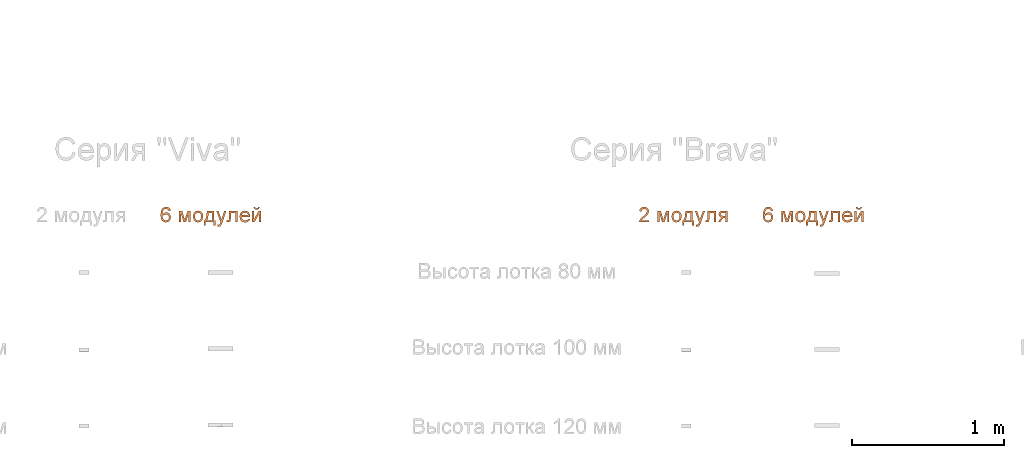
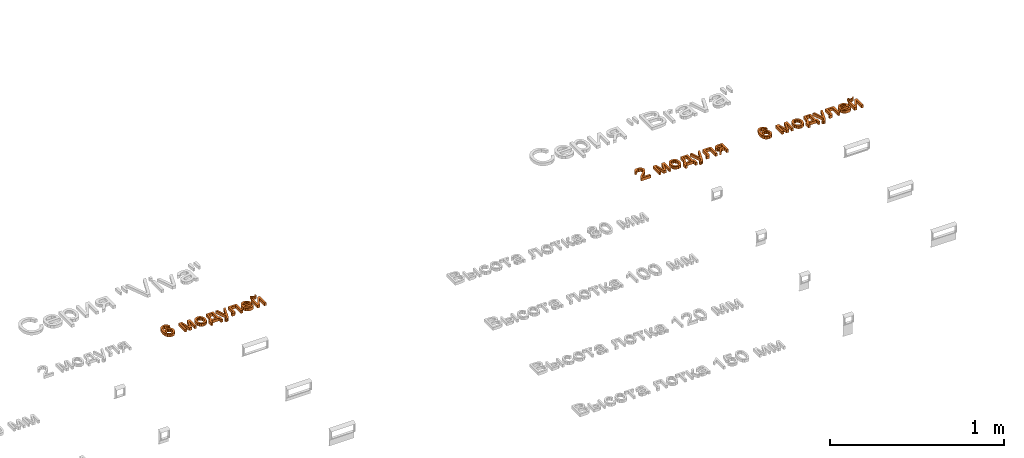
# One storey, part 36 of 71: 3 proxies.
"""IFC2X3 building model written with IfcOpenShell, lengths in millimetres."""

from ifc_helpers import new_model, entity, si_unit, converted_unit, derived_unit, direction, frame, origin, place, context, subcontext, project, spatial, polyline, outline, extrude, element, save


model = new_model("IFC2X3")

# Units and contexts
model_context = context("Model", 3, precision=0.01, world=origin(), true_north=direction((6.12303176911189e-17, 1.0)))
body_context = subcontext(model_context, "Body", "Model", "MODEL_VIEW")
ifc_project = project(units=[si_unit("LENGTHUNIT", "METRE", prefix="MILLI"), si_unit("AREAUNIT", "SQUARE_METRE"), si_unit("VOLUMEUNIT", "CUBIC_METRE"), converted_unit("PLANEANGLEUNIT", "DEGREE", entity("IfcRatioMeasure", 0.0174532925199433), si_unit("PLANEANGLEUNIT", "RADIAN"), dimensions=[0, 0, 0, 0, 0, 0, 0]), si_unit("MASSUNIT", "GRAM", prefix="KILO"), derived_unit("MASSDENSITYUNIT", [(si_unit("MASSUNIT", "GRAM", prefix="KILO"), 1), (si_unit("LENGTHUNIT", "METRE"), -3)]), si_unit("TIMEUNIT", "SECOND"), si_unit("FREQUENCYUNIT", "HERTZ"), si_unit("THERMODYNAMICTEMPERATUREUNIT", "DEGREE_CELSIUS"), derived_unit("THERMALTRANSMITTANCEUNIT", [(si_unit("MASSUNIT", "GRAM", prefix="KILO"), 1), (si_unit("THERMODYNAMICTEMPERATUREUNIT", "KELVIN"), -1), (si_unit("TIMEUNIT", "SECOND"), -3)]), derived_unit("VOLUMETRICFLOWRATEUNIT", [(si_unit("LENGTHUNIT", "METRE"), 3), (si_unit("TIMEUNIT", "SECOND"), -1)]), si_unit("ELECTRICCURRENTUNIT", "AMPERE"), si_unit("ELECTRICVOLTAGEUNIT", "VOLT"), si_unit("POWERUNIT", "WATT"), si_unit("FORCEUNIT", "NEWTON", prefix="KILO"), si_unit("ILLUMINANCEUNIT", "LUX"), si_unit("LUMINOUSFLUXUNIT", "LUMEN"), si_unit("LUMINOUSINTENSITYUNIT", "CANDELA"), derived_unit("USERDEFINED", [(si_unit("MASSUNIT", "GRAM", prefix="KILO"), -1), (si_unit("LENGTHUNIT", "METRE"), -2), (si_unit("TIMEUNIT", "SECOND"), 3), (si_unit("LUMINOUSFLUXUNIT", "LUMEN"), 1)]), derived_unit("LINEARVELOCITYUNIT", [(si_unit("LENGTHUNIT", "METRE"), 1), (si_unit("TIMEUNIT", "SECOND"), -1)]), si_unit("PRESSUREUNIT", "PASCAL"), derived_unit("USERDEFINED", [(si_unit("LENGTHUNIT", "METRE"), -2), (si_unit("MASSUNIT", "GRAM", prefix="KILO"), 1), (si_unit("TIMEUNIT", "SECOND"), -2)])], contexts=[model_context])

# Site, building, storey
site_placement = place(None, origin())
site = spatial("IfcSite", under=ifc_project, at=site_placement, Name="Default", CompositionType="ELEMENT")
building_placement = place(site_placement, origin())
building = spatial("IfcBuilding", under=site, at=building_placement, Name="Наименование здания", CompositionType="ELEMENT")
storey_placement = place(building_placement, origin())
storey = spatial("IfcBuildingStorey", under=building, at=storey_placement, Name="Этаж 01", CompositionType="ELEMENT", Elevation=0.0)

# Proxies
proxy_1_placement = place(storey_placement, origin())
element("IfcBuildingElementProxy", 1, at=proxy_1_placement, inside=storey, Name="Текст модели:100 мм Arial", ObjectType="Текст модели:100 мм Arial", context=body_context, shape_type="SweptSolid", body=[
    extrude(outline(polyline([(6.79275401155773, -32.502776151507), (18.3659045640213, -32.502776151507), (28.152520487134, -28.8011371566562), (35.6312934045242, -21.7178704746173), (40.2809149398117, -11.5729874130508), (41.4130789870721, 3.23667074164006), (36.1391243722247, 16.3729018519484), (21.8599739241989, 28.8803269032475), (-1.50836821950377, 38.2054593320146), (-23.6059131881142, 41.7609274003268), (-39.9814227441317, 38.5965283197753), (-51.1650797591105, 29.9216784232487), (-57.6870671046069, 16.9457940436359), (-57.9805556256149, -0.0494879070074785), (-49.2081886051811, -14.3141019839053), (-33.6167855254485, -22.9350568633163), (-20.6265742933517, -24.2502330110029), (-8.97800352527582, -20.6254922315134), (0.0919027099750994, -13.0350962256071), (5.34612034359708, -2.4533066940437), (5.85483161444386, 11.6447254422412), (-0.843339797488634, 24.9910631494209), (19.7707676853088, 15.5765036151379), (28.484099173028, 4.2676616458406), (28.389351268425, -7.46374532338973), (19.9956250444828, -18.1936336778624), (8.63303585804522, -19.9825396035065), (6.79275401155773, -32.502776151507)]), holes=[polyline([(-18.7586717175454, 29.9549594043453), (-11.6328110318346, 26.3613362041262), (-6.94154076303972, 20.203831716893), (-5.85783236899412, 4.13761066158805), (-9.48331864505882, -3.95286412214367), (-15.1077394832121, -9.26901644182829), (-22.3091633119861, -11.5969098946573), (-30.6656585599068, -10.722608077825), (-38.6094491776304, -7.06141592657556), (-43.8637090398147, -1.22509865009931), (-46.1835287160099, 6.17768396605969), (-45.3239987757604, 14.5382721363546), (-39.6901171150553, 24.7221971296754), (-30.0168134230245, 30.0585493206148), (-18.7586717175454, 29.9549594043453)])]), frame((4252.0631442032, -11537.5554255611, 0.0), z_axis=(0.0, 0.0, 1.0), x_axis=(-0.267015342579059, 0.963692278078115, 0.0)), (0.0, 0.0, 1.0), 20.0),
    extrude(outline(polyline([(-40.5839870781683, -38.4502715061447), (33.1886156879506, -38.4502715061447), (33.1886156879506, -25.8932327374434), (-29.0570178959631, -25.8932327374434), (33.1886156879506, -8.62730443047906), (33.1886156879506, 7.85380895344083), (-26.2120637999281, 25.9045521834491), (33.1886156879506, 25.9045521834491), (33.1886156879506, 38.4615909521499), (-40.5839870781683, 38.4615909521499), (-40.5839870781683, 17.7620973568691), (18.4733358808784, -0.190544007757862), (-40.5839870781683, -16.8433356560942), (-40.5839870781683, -38.4502715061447)])), frame((4374.95936517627, -11562.9145481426, 0.0), z_axis=(0.0, 0.0, 1.0), x_axis=(0.0, -1.0, 0.0)), (0.0, 0.0, 1.0), 20.0),
    extrude(outline(polyline([(-2.34029740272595, -31.6984909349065), (14.2731811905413, -31.6984909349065), (27.1869525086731, -26.5873672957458), (35.990959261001, -17.181127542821), (40.2751441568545, -4.29577920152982), (38.1491713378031, 13.1690451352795), (27.2514955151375, 26.6485362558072), (5.67797919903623, 33.7446283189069), (-10.1280544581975, 33.6081083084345), (-22.8059382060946, 28.3900569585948), (-31.6389568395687, 18.9754531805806), (-35.9103951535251, 6.24927588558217), (-35.540640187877, -5.97109031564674), (-30.8535887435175, -16.7835237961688), (-19.5870121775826, -26.5692340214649), (-2.34029740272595, -31.6984909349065)]), holes=[polyline([(-0.642949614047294, -19.2566729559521), (-11.6948097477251, -16.2599663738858), (-19.0989004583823, -10.834182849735), (-22.9822632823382, -3.67356758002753), (-23.4719397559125, 4.5276342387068), (-20.7783225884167, 12.204664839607), (-15.0781786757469, 18.0357050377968), (-6.56600936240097, 21.2863283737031), (4.56368400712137, 21.2221083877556), (15.8675929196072, 18.1905150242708), (23.3961896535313, 12.7474982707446), (27.3267847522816, 5.59272509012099), (27.8366887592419, -2.57413755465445), (25.1317228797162, -10.3331599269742), (19.4311586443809, -16.1672368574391), (10.8134498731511, -19.3753979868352), (-0.642949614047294, -19.2566729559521)])]), frame((4460.83726648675, -11557.1890151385, 0.0), z_axis=(0.0, 0.0, 1.0), x_axis=(0.137105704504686, -0.990556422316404, 0.0)), (0.0, 0.0, 1.0), 20.0),
    extrude(outline(polyline([(-60.5357741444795, 21.858540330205), (-64.1355131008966, -25.0925613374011), (-3.09908093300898, -29.7722219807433), (-3.81902872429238, -39.1624423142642), (29.0467424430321, -41.6822595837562), (30.0066728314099, -29.1619658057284), (9.66119544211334, -27.6020789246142), (13.6209082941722, 24.0441329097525), (33.9663856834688, 22.4842460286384), (34.9263160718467, 35.0045398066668), (2.06054490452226, 37.5243570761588), (1.46058841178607, 29.6991734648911), (-23.1599571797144, 21.858540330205), (-60.5357741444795, 21.858540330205)]), holes=[polyline([(-48.8554194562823, 9.94335288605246), (-20.1051961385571, 10.6907678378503), (0.380666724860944, 15.6138429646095), (-2.13915054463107, -17.2519282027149), (-50.6552889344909, -13.5321979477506), (-48.8554194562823, 9.94335288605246)])]), frame((4537.3226688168, -11584.360181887, 0.0), z_axis=(0.0, 0.0, -1.0), x_axis=(-0.0764456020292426, -0.997073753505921, 0.0)), (0.0, 0.0, -1.0), 20.0),
    extrude(outline(polyline([(-9.37518561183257, -42.4598564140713), (-1.53988444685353, -42.4598564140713), (7.4823997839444, -37.7362595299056), (12.8451650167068, -27.6028387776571), (16.0988896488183, -10.2155558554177), (26.1240678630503, 68.9356869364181), (13.2448947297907, 66.3022457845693), (7.58427059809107, 21.387273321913), (5.65333119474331, 6.22303112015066), (-2.4583338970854, 21.286400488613), (-24.5276055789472, 58.578795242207), (-37.5028919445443, 55.9257015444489), (3.36457727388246, -10.7416452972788), (3.01267387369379, -13.9176809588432), (1.50096319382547, -23.664192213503), (-1.30543571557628, -28.1807080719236), (-6.86672236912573, -30.7321996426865), (-13.3351736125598, -30.9283412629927), (-9.37518561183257, -42.4598564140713)])), frame((4608.4801651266, -11584.6354645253, 0.0), z_axis=(0.0, 0.0, 1.0), x_axis=(0.979728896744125, -0.200327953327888, 0.0)), (0.0, 0.0, 1.0), 20.0),
    extrude(outline(polyline([(-49.3689973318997, 12.544776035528), (-49.3689973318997, -43.9618984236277), (24.3300290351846, -43.9618984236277), (24.3300290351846, -31.4048596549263), (-36.811958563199, -31.4048596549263), (-36.811958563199, -0.0122627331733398), (-1.61791435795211, -0.0122627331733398), (14.6179443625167, 0.833865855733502), (21.4728122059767, 5.48144172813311), (24.4036054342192, 16.4688506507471), (23.7659433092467, 26.6714446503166), (11.8465666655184, 26.6714446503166), (11.8465666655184, 21.0551128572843), (11.0740144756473, 15.3774673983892), (8.62146784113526, 13.1088617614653), (-2.32915288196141, 12.544776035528), (-49.3689973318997, 12.544776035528)])), frame((4677.10650753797, -11571.6995583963, 0.0), z_axis=(0.0, 0.0, -1.0), x_axis=(0.0, -1.0, 0.0)), (0.0, 0.0, -1.0), 20.0),
    extrude(outline(polyline([(-8.10128238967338, -20.3751729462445), (-15.5352214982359, -30.3140016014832), (-5.78400372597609, -33.5775071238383), (4.12185089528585, -33.3132173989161), (13.8776168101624, -29.4480778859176), (23.1785684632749, -21.90903404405), (31.6380426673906, -9.59237957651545), (34.1620486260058, 3.74135328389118), (30.604050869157, 17.2442201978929), (20.8175139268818, 30.0682768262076), (7.27698270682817, 39.7846728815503), (-6.66179525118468, 43.1117813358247), (-19.9642596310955, 40.4221234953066), (-31.5958501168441, 32.0882206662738), (-39.2435519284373, 20.5090048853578), (-41.3106827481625, 7.34319797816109), (-37.4373707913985, -6.34962495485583), (-27.2637442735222, -19.5098888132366), (-24.7804584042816, -21.8106804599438), (14.4643272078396, 18.7422646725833), (19.7071986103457, 10.6437992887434), (21.1614672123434, 2.21005051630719), (19.1472085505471, -5.98136753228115), (13.9844981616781, -13.35284074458), (3.53684605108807, -20.3751729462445), (-8.10128238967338, -20.3751729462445)]), holes=[polyline([(5.44081225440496, 27.4746984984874), (-25.1227061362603, -4.10760383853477), (-29.8038819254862, 7.41909510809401), (-27.8851342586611, 15.7498710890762), (-22.5382240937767, 23.3910349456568), (-8.40970331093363, 31.2368652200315), (-1.08072680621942, 30.9147288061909), (5.44081225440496, 27.4746984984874)])]), frame((4771.2791479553, -11565.7806130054, 0.0), z_axis=(0.0, 0.0, -1.0), x_axis=(-0.695421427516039, -0.718602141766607, 0.0)), (0.0, 0.0, -1.0), 20.0),
    extrude(outline(polyline([(-11.1429830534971, -6.65049913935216), (-15.3141401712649, -15.0941956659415), (-0.092219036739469, -15.8161107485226), (10.2631635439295, -5.8454754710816), (12.4162171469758, 9.42172447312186), (2.76087400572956, 21.4951559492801), (-1.41028311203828, 13.0514594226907), (3.36929976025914, 6.75127419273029), (2.31913688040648, -0.662833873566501), (-3.16906596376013, -6.65049913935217), (-11.1429830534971, -6.65049913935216)])), frame((4846.72831160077, -11502.6917938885, 0.0), z_axis=(0.0, 0.0, -1.0), x_axis=(-0.442902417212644, -0.896569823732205, 0.0)), (0.0, 0.0, -1.0), 20.0),
    extrude(outline(polyline([(-36.9206370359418, -29.8425874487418), (36.8519657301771, -29.8425874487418), (36.8519657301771, -13.4105249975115), (-19.0660975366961, 17.2463079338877), (36.8519657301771, 17.2463079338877), (36.8519657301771, 29.8033467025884), (-36.9206370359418, 29.8033467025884), (-36.9206370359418, 13.5674879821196), (19.3407827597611, -17.2855486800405), (-36.9206370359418, -17.2855486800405), (-36.9206370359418, -29.8425874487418)])), frame((4846.65841402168, -11559.2511981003, 0.0), z_axis=(0.0, 0.0, 1.0), x_axis=(0.0, -1.0, 0.0)), (0.0, 0.0, 1.0), 20.0),
])
proxy_2_placement = place(storey_placement, origin())
element("IfcBuildingElementProxy", 2, at=proxy_2_placement, inside=storey, Name="Текст модели:100 мм Arial", ObjectType="Текст модели:100 мм Arial", context=body_context, shape_type="SweptSolid", body=[
    extrude(outline(polyline([(-32.3858783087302, -45.1669477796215), (-32.3858783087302, -57.7239865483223), (33.5385752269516, -57.7239865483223), (32.1896745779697, -49.0664969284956), (24.5622545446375, -35.7369059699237), (8.84143061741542, -21.1810416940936), (-12.8390816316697, -0.260818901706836), (-18.2592096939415, 13.963951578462), (-13.1456499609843, 25.4786580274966), (0.20846646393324, 30.1752848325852), (14.1266686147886, 25.5890226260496), (19.4119066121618, 12.9093565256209), (31.9689453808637, 14.4789863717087), (28.9247218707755, 26.6252235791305), (22.3426998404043, 35.4973110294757), (12.5662358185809, 40.923570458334), (-0.0613136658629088, 42.732323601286), (-12.7808336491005, 40.7212353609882), (-22.5389035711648, 34.6879706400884), (-28.7469122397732, 25.674861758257), (-30.8162484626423, 14.7242410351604), (-28.5844310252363, 2.81712712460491), (-21.1654774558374, -9.49465698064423), (-3.17604789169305, -26.6992716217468), (11.2694517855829, -38.7780637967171), (16.9348345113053, -45.1669477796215), (-32.3858783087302, -45.1669477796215)])), frame((7395.30963024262, -11538.3791772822, 0.0), z_axis=(0.0, 0.0, -1.0), x_axis=(-1.0, 0.0, 0.0)), (0.0, 0.0, -1.0), 20.0),
    extrude(outline(polyline([(-40.5839870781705, -38.4502715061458), (33.1886156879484, -38.4502715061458), (33.1886156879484, -25.8932327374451), (-29.0570178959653, -25.8932327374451), (33.1886156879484, -8.62730443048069), (33.1886156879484, 7.85380895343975), (-26.2120637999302, 25.904552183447), (33.1886156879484, 25.904552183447), (33.1886156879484, 38.4615909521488), (-40.5839870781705, 38.4615909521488), (-40.5839870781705, 17.7620973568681), (18.4733358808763, -0.190544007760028), (-40.5839870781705, -16.8433356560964), (-40.5839870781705, -38.4502715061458)])), frame((7521.08282467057, -11562.9145481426, 0.0), z_axis=(0.0, 0.0, 1.0), x_axis=(0.0, -1.0, 0.0)), (0.0, 0.0, 1.0), 20.0),
    extrude(outline(polyline([(-2.34029740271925, -31.6984909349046), (14.2731811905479, -31.6984909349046), (27.1869525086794, -26.5873672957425), (35.9909592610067, -17.1811275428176), (40.2751441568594, -4.29577920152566), (38.1491713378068, 13.169045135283), (27.2514955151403, 26.6485362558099), (5.67797919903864, 33.7446283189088), (-10.1280544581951, 33.6081083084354), (-22.8059382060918, 28.3900569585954), (-31.6389568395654, 18.9754531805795), (-35.9103951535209, 6.2492758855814), (-35.540640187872, -5.97109031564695), (-30.8535887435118, -16.7835237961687), (-19.5870121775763, -26.5692340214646), (-2.34029740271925, -31.6984909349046)]), holes=[polyline([(-0.642949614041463, -19.2566729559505), (-11.6948097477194, -16.259966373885), (-19.0989004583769, -10.8341828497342), (-22.9822632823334, -3.67356758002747), (-23.4719397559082, 4.52763423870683), (-20.7783225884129, 12.2046648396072), (-15.0781786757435, 18.0357050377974), (-6.56600936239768, 21.2863283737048), (4.56368400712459, 21.2221083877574), (15.8675929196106, 18.1905150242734), (23.396189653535, 12.7474982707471), (27.3267847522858, 5.59272509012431), (27.8366887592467, -2.5741375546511), (25.1317228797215, -10.333159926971), (19.4311586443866, -16.1672368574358), (10.813449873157, -19.3753979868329), (-0.642949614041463, -19.2566729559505)])]), frame((7606.96072598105, -11557.1890151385, 0.0), z_axis=(0.0, 0.0, 1.0), x_axis=(0.137105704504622, -0.990556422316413, 0.0)), (0.0, 0.0, 1.0), 20.0),
    extrude(outline(polyline([(-60.5357741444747, 21.8585403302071), (-64.1355131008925, -25.0925613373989), (-3.09908093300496, -29.772221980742), (-3.81902872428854, -39.1624423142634), (29.0467424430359, -41.6822595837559), (30.006672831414, -29.161965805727), (9.66119544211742, -27.6020789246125), (13.620908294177, 24.0441329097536), (33.9663856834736, 22.4842460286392), (34.9263160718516, 35.004539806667), (2.0605449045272, 37.5243570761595), (1.4605884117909, 29.6991734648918), (-23.1599571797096, 21.8585403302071), (-60.5357741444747, 21.8585403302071)]), holes=[polyline([(-48.8554194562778, 9.94335288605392), (-20.1051961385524, 10.6907678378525), (0.380666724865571, 15.6138429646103), (-2.13915054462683, -17.2519282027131), (-50.6552889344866, -13.532197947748), (-48.8554194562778, 9.94335288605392)])]), frame((7683.44612831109, -11584.360181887, 0.0), z_axis=(0.0, 0.0, -1.0), x_axis=(-0.0764456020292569, -0.99707375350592, 0.0)), (0.0, 0.0, -1.0), 20.0),
    extrude(outline(polyline([(-9.37518561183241, -42.4598564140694), (-1.5398844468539, -42.4598564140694), (7.48239978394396, -37.7362595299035), (12.8451650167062, -27.6028387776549), (16.0988896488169, -10.2155558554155), (26.1240678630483, 68.9356869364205), (13.2448947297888, 66.3022457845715), (7.58427059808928, 21.387273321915), (5.65333119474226, 6.22303112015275), (-2.45833389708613, 21.2864004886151), (-24.527605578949, 58.5787952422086), (-37.502891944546, 55.9257015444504), (3.36457727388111, -10.7416452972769), (3.01267387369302, -13.9176809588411), (1.50096319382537, -23.6641922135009), (-1.30543571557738, -28.1807080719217), (-6.8667223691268, -30.7321996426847), (-13.3351736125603, -30.9283412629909), (-9.37518561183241, -42.4598564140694)])), frame((7754.6036246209, -11584.6354645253, 0.0), z_axis=(0.0, 0.0, 1.0), x_axis=(0.979728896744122, -0.200327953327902, 0.0)), (0.0, 0.0, 1.0), 20.0),
    extrude(outline(polyline([(-49.3689973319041, 12.5447760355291), (-49.3689973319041, -43.9618984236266), (24.3300290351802, -43.9618984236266), (24.3300290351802, -31.4048596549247), (-36.8119585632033, -31.4048596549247), (-36.8119585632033, -0.0122627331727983), (-1.61791435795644, -0.0122627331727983), (14.6179443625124, 0.833865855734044), (21.4728122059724, 5.48144172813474), (24.4036054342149, 16.4688506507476), (23.7659433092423, 26.6714446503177), (11.8465666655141, 26.6714446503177), (11.8465666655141, 21.0551128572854), (11.0740144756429, 15.3774673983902), (8.62146784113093, 13.1088617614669), (-2.32915288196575, 12.5447760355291), (-49.3689973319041, 12.5447760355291)])), frame((7823.22996703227, -11571.6995583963, 0.0), z_axis=(0.0, 0.0, -1.0), x_axis=(0.0, -1.0, 0.0)), (0.0, 0.0, -1.0), 20.0),
    extrude(outline(polyline([(-36.188006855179, -39.1855638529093), (-3.42198381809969, -39.1855638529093), (7.43666640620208, -37.7079045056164), (15.3890488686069, -33.2749264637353), (20.2634853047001, -26.4691095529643), (21.8882974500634, -17.8729335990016), (17.1303569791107, -3.64816311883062), (11.0970922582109, 1.34890064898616), (2.51317903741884, 3.97925691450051), (13.2062823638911, 14.4271055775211), (25.812372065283, 34.5870389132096), (11.2932959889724, 34.5870389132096), (1.28690572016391, 18.6454857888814), (-7.46868576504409, 7.92785699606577), (-16.78836297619, 6.33370168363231), (-23.6309680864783, 6.33370168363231), (-23.6309680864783, 34.5870389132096), (-36.188006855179, 34.5870389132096), (-36.188006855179, -39.1855638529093)]), holes=[polyline([(-23.6309680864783, -26.6285250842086), (-23.6309680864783, -6.22333708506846), (-10.7796237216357, -6.22333708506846), (4.90441200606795, -8.8107737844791), (9.3312586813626, -16.9164404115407), (6.32688905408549, -23.7222573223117), (-7.07627830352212, -26.6285250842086), (-23.6309680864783, -26.6285250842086)])]), frame((7906.34609121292, -11561.5161249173, 0.0), z_axis=(0.0, 0.0, 1.0), x_axis=(-1.0, 0.0, 0.0)), (0.0, 0.0, 1.0), 20.0),
])
proxy_3_placement = place(storey_placement, origin())
element("IfcBuildingElementProxy", 3, at=proxy_3_placement, inside=storey, Name="Текст модели:100 мм Arial", ObjectType="Текст модели:100 мм Arial", context=body_context, shape_type="SweptSolid", body=[
    extrude(outline(polyline([(6.79275401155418, -32.5027761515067), (18.3659045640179, -32.5027761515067), (28.1525204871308, -28.8011371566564), (35.6312934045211, -21.7178704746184), (40.2809149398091, -11.572987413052), (41.4130789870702, 3.23667074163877), (36.1391243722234, 16.3729018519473), (21.8599739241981, 28.8803269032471), (-1.50836821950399, 38.2054593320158), (-23.6059131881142, 41.760927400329), (-39.9814227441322, 38.5965283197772), (-51.1650797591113, 29.9216784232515), (-57.6870671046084, 16.9457940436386), (-57.980555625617, -0.0494879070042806), (-49.2081886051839, -14.3141019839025), (-33.6167855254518, -22.9350568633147), (-20.6265742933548, -24.2502330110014), (-8.97800352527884, -20.6254922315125), (0.0919027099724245, -13.0350962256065), (5.34612034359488, -2.45330669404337), (5.8548316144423, 11.6447254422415), (-0.843339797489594, 24.9910631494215), (19.7707676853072, 15.5765036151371), (28.484099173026, 4.26766164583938), (28.3893512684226, -7.46374532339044), (19.9956250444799, -18.1936336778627), (8.63303585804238, -19.9825396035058), (6.79275401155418, -32.5027761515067)]), holes=[polyline([(-18.7586717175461, 29.9549594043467), (-11.6328110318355, 26.3613362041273), (-6.94154076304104, 20.2038317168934), (-5.85783236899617, 4.13761066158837), (-9.48331864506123, -3.95286412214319), (-15.1077394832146, -9.26901644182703), (-22.3091633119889, -11.5969098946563), (-30.6656585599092, -10.7226080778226), (-38.6094491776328, -7.06141592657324), (-43.8637090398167, -1.22509865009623), (-46.1835287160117, 6.17768396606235), (-45.3239987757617, 14.5382721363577), (-39.6901171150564, 24.7221971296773), (-30.0168134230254, 30.0585493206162), (-18.7586717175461, 29.9549594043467)])]), frame((8212.06314420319, -11537.5554255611, 0.0), z_axis=(0.0, 0.0, 1.0), x_axis=(-0.267015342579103, 0.963692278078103, 0.0)), (0.0, 0.0, 1.0), 20.0),
    extrude(outline(polyline([(-40.5839870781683, -38.4502715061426), (33.1886156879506, -38.4502715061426), (33.1886156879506, -25.8932327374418), (-29.0570178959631, -25.8932327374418), (33.1886156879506, -8.62730443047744), (33.1886156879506, 7.853808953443), (-26.2120637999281, 25.9045521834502), (33.1886156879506, 25.9045521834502), (33.1886156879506, 38.4615909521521), (-40.5839870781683, 38.4615909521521), (-40.5839870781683, 17.7620973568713), (18.4733358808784, -0.190544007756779), (-40.5839870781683, -16.8433356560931), (-40.5839870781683, -38.4502715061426)])), frame((8334.95936517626, -11562.9145481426, 0.0), z_axis=(0.0, 0.0, 1.0), x_axis=(0.0, -1.0, 0.0)), (0.0, 0.0, 1.0), 20.0),
    extrude(outline(polyline([(-2.34029740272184, -31.6984909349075), (14.2731811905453, -31.6984909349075), (27.1869525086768, -26.5873672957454), (35.9909592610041, -17.1811275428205), (40.2751441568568, -4.29577920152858), (38.1491713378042, 13.1690451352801), (27.2514955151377, 26.648536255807), (5.67797919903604, 33.7446283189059), (-10.1280544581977, 33.6081083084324), (-22.8059382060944, 28.3900569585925), (-31.638956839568, 18.9754531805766), (-35.9103951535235, 6.24927588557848), (-35.5406401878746, -5.97109031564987), (-30.8535887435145, -16.7835237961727), (-19.5870121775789, -26.5692340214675), (-2.34029740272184, -31.6984909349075)]), holes=[polyline([(-0.642949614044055, -19.2566729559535), (-11.694809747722, -16.2599663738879), (-19.0989004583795, -10.8341828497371), (-22.982263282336, -3.67356758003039), (-23.4719397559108, 4.52763423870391), (-20.7783225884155, 12.2046648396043), (-15.0781786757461, 18.0357050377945), (-6.56600936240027, 21.2863283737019), (4.56368400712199, 21.2221083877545), (15.867592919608, 18.1905150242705), (23.3961896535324, 12.7474982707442), (27.3267847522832, 5.59272509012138), (27.8366887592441, -2.57413755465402), (25.1317228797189, -10.3331599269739), (19.431158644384, -16.1672368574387), (10.8134498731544, -19.3753979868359), (-0.642949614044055, -19.2566729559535)])]), frame((8420.83726648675, -11557.1890151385, 0.0), z_axis=(0.0, 0.0, 1.0), x_axis=(0.137105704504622, -0.990556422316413, 0.0)), (0.0, 0.0, 1.0), 20.0),
    extrude(outline(polyline([(-60.5357741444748, 21.8585403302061), (-64.1355131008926, -25.0925613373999), (-3.09908093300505, -29.7722219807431), (-3.81902872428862, -39.1624423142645), (29.0467424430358, -41.682259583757), (30.0066728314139, -29.161965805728), (9.66119544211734, -27.6020789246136), (13.6209082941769, 24.0441329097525), (33.9663856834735, 22.4842460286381), (34.9263160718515, 35.0045398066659), (2.06054490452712, 37.5243570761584), (1.46058841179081, 29.6991734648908), (-23.1599571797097, 21.8585403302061), (-60.5357741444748, 21.8585403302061)]), holes=[polyline([(-48.8554194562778, 9.94335288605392), (-20.1051961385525, 10.6907678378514), (0.380666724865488, 15.6138429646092), (-2.13915054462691, -17.2519282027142), (-50.6552889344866, -13.5321979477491), (-48.8554194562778, 9.94335288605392)])]), frame((8497.32266881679, -11584.360181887, 0.0), z_axis=(0.0, 0.0, -1.0), x_axis=(-0.0764456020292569, -0.99707375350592, 0.0)), (0.0, 0.0, -1.0), 20.0),
    extrude(outline(polyline([(-9.37518561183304, -42.4598564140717), (-1.53988444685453, -42.4598564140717), (7.48239978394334, -37.7362595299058), (12.8451650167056, -27.6028387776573), (16.0988896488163, -10.2155558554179), (26.1240678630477, 68.9356869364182), (13.2448947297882, 66.3022457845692), (7.58427059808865, 21.3872733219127), (5.65333119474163, 6.22303112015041), (-2.45833389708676, 21.2864004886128), (-24.5276055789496, 58.5787952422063), (-37.5028919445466, 55.9257015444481), (3.36457727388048, -10.7416452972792), (3.01267387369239, -13.9176809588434), (1.50096319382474, -23.6641922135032), (-1.30543571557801, -28.1807080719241), (-6.86672236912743, -30.7321996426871), (-13.3351736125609, -30.9283412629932), (-9.37518561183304, -42.4598564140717)])), frame((8568.48016512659, -11584.6354645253, 0.0), z_axis=(0.0, 0.0, 1.0), x_axis=(0.979728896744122, -0.200327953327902, 0.0)), (0.0, 0.0, 1.0), 20.0),
    extrude(outline(polyline([(-49.3689973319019, 12.5447760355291), (-49.3689973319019, -43.9618984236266), (24.3300290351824, -43.9618984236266), (24.3300290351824, -31.4048596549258), (-36.8119585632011, -31.4048596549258), (-36.8119585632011, -0.0122627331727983), (-1.61791435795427, -0.0122627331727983), (14.6179443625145, 0.833865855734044), (21.4728122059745, 5.48144172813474), (24.403605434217, 16.4688506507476), (23.7659433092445, 26.6714446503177), (11.8465666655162, 26.6714446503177), (11.8465666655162, 21.0551128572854), (11.0740144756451, 15.3774673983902), (8.62146784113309, 13.1088617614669), (-2.32915288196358, 12.5447760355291), (-49.3689973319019, 12.5447760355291)])), frame((8637.10650753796, -11571.6995583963, 0.0), z_axis=(0.0, 0.0, -1.0), x_axis=(0.0, -1.0, 0.0)), (0.0, 0.0, -1.0), 20.0),
    extrude(outline(polyline([(-8.10128238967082, -20.3751729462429), (-15.5352214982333, -30.3140016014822), (-5.78400372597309, -33.5775071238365), (4.12185089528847, -33.3132173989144), (13.8776168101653, -29.4480778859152), (23.1785684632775, -21.9090340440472), (31.6380426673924, -9.59237957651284), (34.1620486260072, 3.74135328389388), (30.6040508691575, 17.2442201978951), (20.8175139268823, 30.0682768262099), (7.27698270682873, 39.7846728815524), (-6.66179525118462, 43.111781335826), (-19.9642596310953, 40.4221234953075), (-31.5958501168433, 32.0882206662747), (-39.2435519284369, 20.5090048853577), (-41.3106827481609, 7.34319797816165), (-37.4373707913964, -6.34962495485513), (-27.26374427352, -19.5098888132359), (-24.780458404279, -21.8106804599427), (14.4643272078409, 18.7422646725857), (19.7071986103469, 10.6437992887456), (21.1614672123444, 2.21005051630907), (19.1472085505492, -5.98136753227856), (13.9844981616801, -13.352840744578), (3.53684605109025, -20.3751729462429), (-8.10128238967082, -20.3751729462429)]), holes=[polyline([(5.44081225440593, 27.4746984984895), (-25.122706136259, -4.10760383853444), (-29.8038819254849, 7.41909510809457), (-27.8851342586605, 15.7498710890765), (-22.5382240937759, 23.3910349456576), (-8.40970331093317, 31.2368652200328), (-1.08072680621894, 30.9147288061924), (5.44081225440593, 27.4746984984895)])]), frame((8731.27914795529, -11565.7806130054, 0.0), z_axis=(0.0, 0.0, -1.0), x_axis=(-0.695421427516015, -0.71860214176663, 0.0)), (0.0, 0.0, -1.0), 20.0),
    extrude(outline(polyline([(-11.1429830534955, -6.65049913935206), (-15.3141401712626, -15.0941956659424), (-0.0922190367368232, -15.8161107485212), (10.2631635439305, -5.84547547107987), (12.4162171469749, 9.42172447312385), (2.76087400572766, 21.4951559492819), (-1.41028311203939, 13.0514594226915), (3.36929976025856, 6.75127419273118), (2.31913688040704, -0.662833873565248), (-3.16906596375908, -6.65049913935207), (-11.1429830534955, -6.65049913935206)])), frame((8806.72831160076, -11502.6917938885, 0.0), z_axis=(0.0, 0.0, -1.0), x_axis=(-0.442902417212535, -0.896569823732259, 0.0)), (0.0, 0.0, -1.0), 20.0),
    extrude(outline(polyline([(-36.9206370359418, -29.8425874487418), (36.8519657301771, -29.8425874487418), (36.8519657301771, -13.4105249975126), (-19.0660975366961, 17.2463079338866), (36.8519657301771, 17.2463079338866), (36.8519657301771, 29.8033467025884), (-36.9206370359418, 29.8033467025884), (-36.9206370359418, 13.5674879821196), (19.3407827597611, -17.2855486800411), (-36.9206370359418, -17.2855486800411), (-36.9206370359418, -29.8425874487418)])), frame((8806.65841402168, -11559.2511981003, 0.0), z_axis=(0.0, 0.0, 1.0), x_axis=(0.0, -1.0, 0.0)), (0.0, 0.0, 1.0), 20.0),
])

save(model, "model.ifc")
